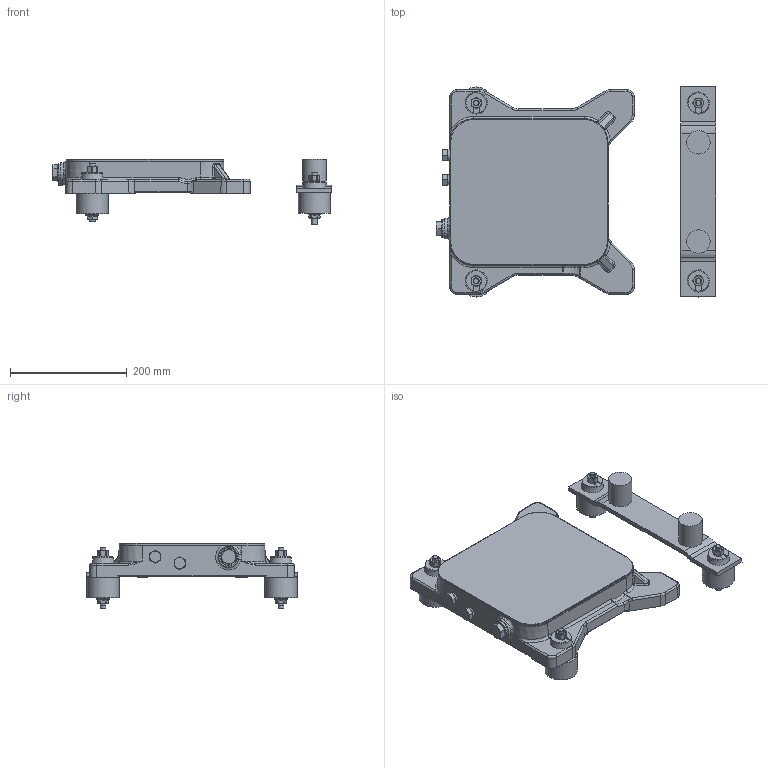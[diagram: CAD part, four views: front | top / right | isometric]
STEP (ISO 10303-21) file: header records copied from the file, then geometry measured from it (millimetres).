
FILE_DESCRIPTION(/* description */ (''),/* implementation_level */ '2;1');
FILE_NAME(/* name */ '4JE-4HE-4GE-4FE-Bodenplatte MARINE.stp',/* time_stamp */ '2024-06-26T16:40:06+02:00',/* author */ (''),/* organization */ (''),/* preprocessor_version */ 'ST-DEVELOPER v19.4',/* originating_system */ 'SIEMENS PLM Software NX2212.8901',/* authorisation */ '');
FILE_SCHEMA (('AUTOMOTIVE_DESIGN { 1 0 10303 214 3 1 1 1 }'));
Length unit declared in the file: millimetre
Products named in the file (4): 200110759ugm001_00; 200049740ugm001_00; 200682031ugm001_00; 200049717ugm001_06
Assembly tree (5 placements, depth 2):
  200049717ugm001_06
    200682031ugm001_00
    200049740ugm001_00  x2
    200110759ugm001_00  x2
Bounding box: 479.8 x 360 x 112.5 mm (x, y, z)
Volume: 4675247.7 mm3; surface area: 455407.4 mm2
Topology: 8 solids, 18 shells, 1404 faces, 3178 edges, 1902 vertices
Faces by surface type: plane 614, cylinder 333, cone 282, bspline 114, torus 59, sphere 2
Full cylindrical faces by diameter (mm): 8 x21, 9.17 x2, 9.732 x14, 10 x18, 11 x10, 12.2 x4, 12.5 x2, 16 x21, 17.145 x2, 18 x21, 20 x4, 21 x4, 22 x4, 27 x4, 31 x1, 35 x1, 40 x2, 55 x4
Entity records: 35048 total; most frequent: CARTESIAN_POINT 9022, DIRECTION 5357, ORIENTED_EDGE 4914, EDGE_CURVE 2457, AXIS2_PLACEMENT_3D 2151, VERTEX_POINT 1584, EDGE_LOOP 1512, ADVANCED_FACE 1209
